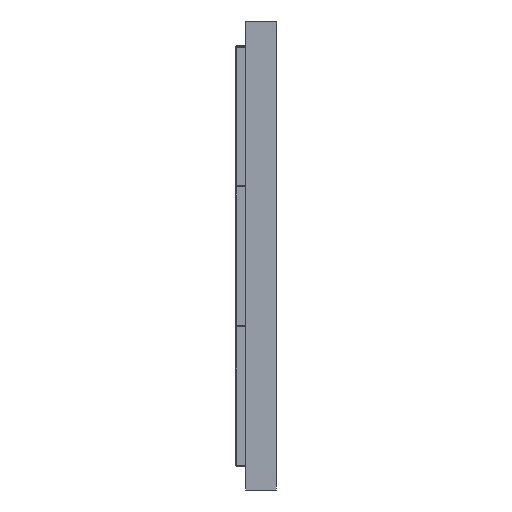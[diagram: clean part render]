
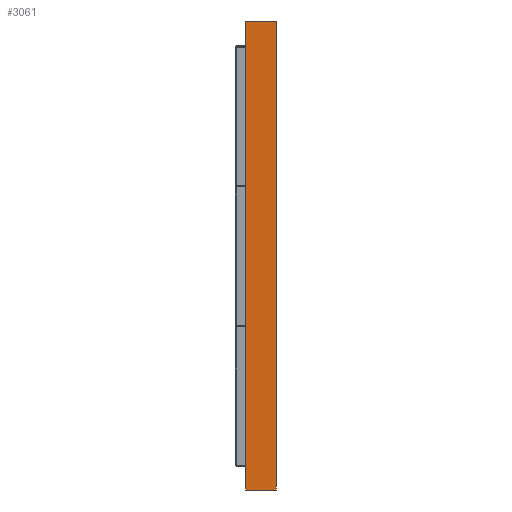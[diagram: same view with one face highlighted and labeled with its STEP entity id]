
A CAD part, left-side view. The second image highlights one B-rep face of the part: STEP entity #3061.
In plain terms, the highlighted planar face has unit normal (-0.999, 0, -0.035).
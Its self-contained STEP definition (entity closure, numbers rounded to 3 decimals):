
#179 = CARTESIAN_POINT ( 'NONE',  ( -72.616, 164.92, 92.41 ) ) ;
#2896 = VERTEX_POINT ( 'NONE', #26481 ) ;
#3061 = ADVANCED_FACE ( 'NONE', ( #7922 ), #7748, .F. ) ;
#3303 = VERTEX_POINT ( 'NONE', #27538 ) ;
#5578 = DIRECTION ( 'NONE',  ( 0., -1., 0. ) ) ;
#7748 = PLANE ( 'NONE',  #27452 ) ;
#7922 = FACE_OUTER_BOUND ( 'NONE', #14846, .T. ) ;
#8367 = DIRECTION ( 'NONE',  ( 0.035, 0., -0.999 ) ) ;
#8938 = ORIENTED_EDGE ( 'NONE', *, *, #26706, .F. ) ;
#10451 = DIRECTION ( 'NONE',  ( -0.035, 0., 0.999 ) ) ;
#13139 = LINE ( 'NONE', #179, #18508 ) ;
#13229 = ORIENTED_EDGE ( 'NONE', *, *, #19985, .T. ) ;
#14189 = VECTOR ( 'NONE', #23142, 1000. ) ;
#14846 = EDGE_LOOP ( 'NONE', ( #13229, #17435, #8938, #32965 ) ) ;
#15824 = DIRECTION ( 'NONE',  ( 0.999, 0., 0.035 ) ) ;
#17435 = ORIENTED_EDGE ( 'NONE', *, *, #27471, .F. ) ;
#18021 = DIRECTION ( 'NONE',  ( 0.035, 0., -0.999 ) ) ;
#18202 = VECTOR ( 'NONE', #8367, 1000. ) ;
#18508 = VECTOR ( 'NONE', #10451, 1000. ) ;
#19208 = VECTOR ( 'NONE', #5578, 1000. ) ;
#19419 = CARTESIAN_POINT ( 'NONE',  ( -72.616, 164.92, 92.41 ) ) ;
#19985 = EDGE_CURVE ( 'NONE', #20688, #3303, #30894, .T. ) ;
#20688 = VERTEX_POINT ( 'NONE', #19419 ) ;
#23037 = EDGE_CURVE ( 'NONE', #20688, #2896, #13139, .T. ) ;
#23142 = DIRECTION ( 'NONE',  ( 0., -1., 0. ) ) ;
#23403 = LINE ( 'NONE', #28605, #19208 ) ;
#23483 = CARTESIAN_POINT ( 'NONE',  ( -72.616, 164.92, 92.41 ) ) ;
#25993 = LINE ( 'NONE', #28359, #18202 ) ;
#26481 = CARTESIAN_POINT ( 'NONE',  ( -79.041, 164.92, 276.41 ) ) ;
#26706 = EDGE_CURVE ( 'NONE', #2896, #29035, #23403, .T. ) ;
#27452 = AXIS2_PLACEMENT_3D ( 'NONE', #30781, #15824, #18021 ) ;
#27471 = EDGE_CURVE ( 'NONE', #29035, #3303, #25993, .T. ) ;
#27538 = CARTESIAN_POINT ( 'NONE',  ( -72.616, 152.92, 92.41 ) ) ;
#28359 = CARTESIAN_POINT ( 'NONE',  ( -79.041, 152.92, 276.41 ) ) ;
#28482 = CARTESIAN_POINT ( 'NONE',  ( -79.041, 152.92, 276.41 ) ) ;
#28605 = CARTESIAN_POINT ( 'NONE',  ( -79.041, 164.92, 276.41 ) ) ;
#29035 = VERTEX_POINT ( 'NONE', #28482 ) ;
#30781 = CARTESIAN_POINT ( 'NONE',  ( -72.616, 164.92, 92.41 ) ) ;
#30894 = LINE ( 'NONE', #23483, #14189 ) ;
#32965 = ORIENTED_EDGE ( 'NONE', *, *, #23037, .F. ) ;
